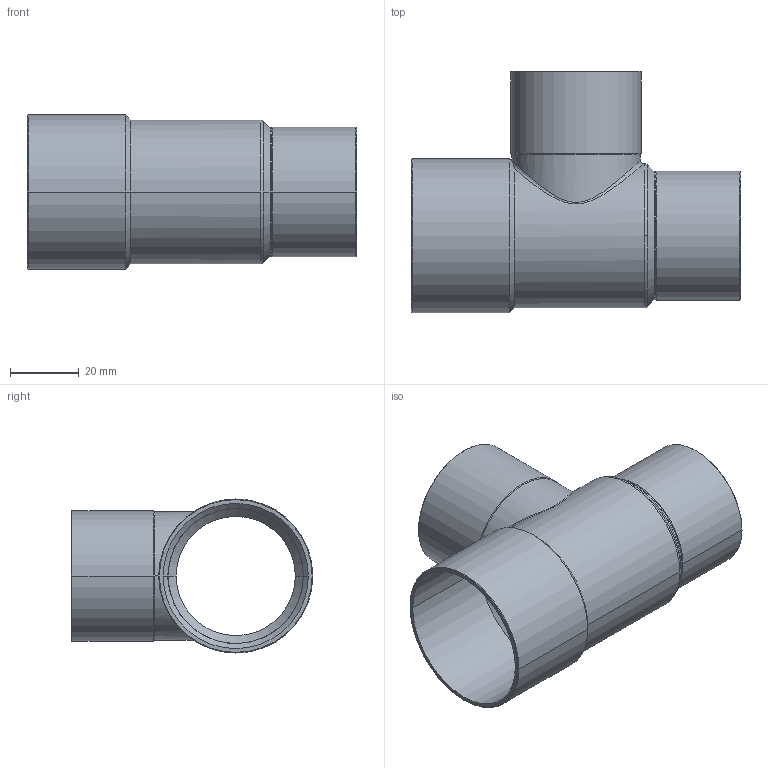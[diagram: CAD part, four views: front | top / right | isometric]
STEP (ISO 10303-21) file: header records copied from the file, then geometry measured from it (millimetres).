
FILE_DESCRIPTION((''),'2;1');
FILE_NAME('G:\Technics\CAD\Bauteile\15130\15130423535.stp','2005-11-03T13:43:08',('boden'),(''),'Autodesk Inventor 8','Autodesk Inventor 8','');
FILE_SCHEMA(('AUTOMOTIVE_DESIGN { 1 0 10303 214 1 1 1 1 }'));
Length unit declared in the file: millimetre
Products named in the file (1): 15130423535
Bounding box: 96 x 70.47 x 44.95 mm (x, y, z)
Volume: 19762.5 mm3; surface area: 30259.4 mm2
Topology: 1 solids, 1 shells, 57 faces, 130 edges, 74 vertices
Faces by surface type: cone 26, cylinder 24, plane 3, torus 2, bspline 2
Entity records: 2150 total; most frequent: CARTESIAN_POINT 834, DIRECTION 290, ORIENTED_EDGE 260, EDGE_CURVE 130, AXIS2_PLACEMENT_3D 120, VERTEX_POINT 74, CIRCLE 64, EDGE_LOOP 60
